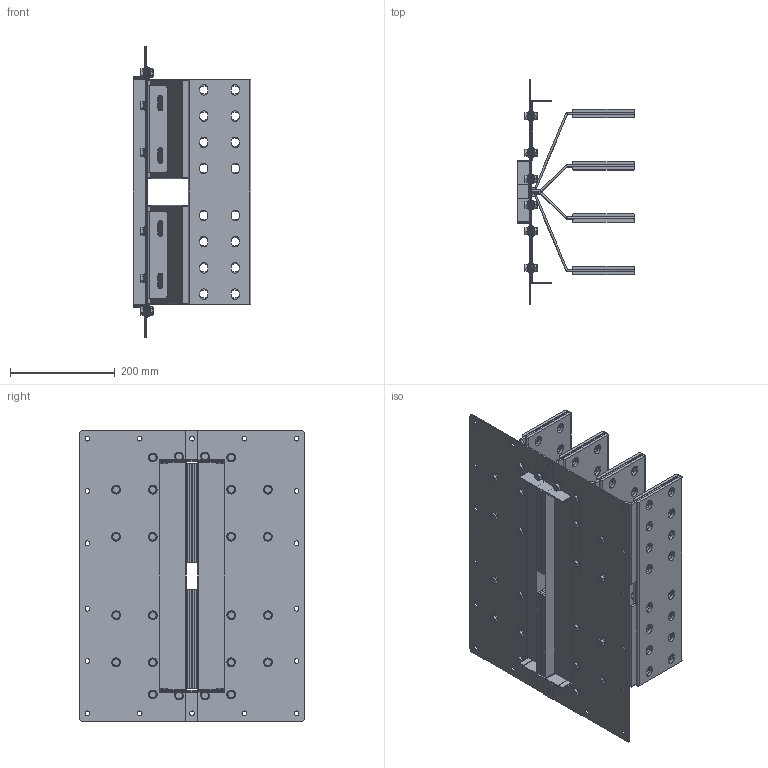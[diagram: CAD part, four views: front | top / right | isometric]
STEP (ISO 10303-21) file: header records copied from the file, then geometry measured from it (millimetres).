
FILE_DESCRIPTION(('CATIA V5 STEP','CAx-IF Rec.Pracs.--- Model Styling and Organization---1.5--- 2016-08-15','CAx-IF Rec.Pracs.---Supplemental Geometry---1.0---2011-11-01','CAx-IF Rec.Pracs.--- Composite Materials ---1.1---2010-07-15'),'2;1');
FILE_NAME('K:\COSCN 2011\32372311_RiduzioneSezioniBarre\03_Studio\__Modelli semplificati\XCP_UB semplificati per studi\XCP-S_UB_4C_Pe_STD_Assieme\Cu\XCP-S_UB_4C_Pe_D_Assieme - 4000A Cu\XCP-S_UB_4C_Pe_D_Assieme - 4000A Cu.stp','2025-05-12T13:18:26+00:00',('Utente Bticino'),('Bticino S.p.A.'),'CATIA Version 5-6 Release 2020 SP5','CATIA V5 STEP AP214 v2','none');
FILE_SCHEMA(('AUTOMOTIVE_DESIGN { 1 0 10303 214 1 1 1 1 }'));
Length unit declared in the file: millimetre
Products named in the file (8): XCP-S_UB_4C_Pe_D_Assieme - 4000A Cu; XCP-S_UB_4C_Pe_D_PaccoBarre_4000 Cu; XCP-S_UB_4C_Pe_D_Lamiere_4000A Cu; XCP-S_UB_4C_Pe_D_PaccoBarre_4000 Cu_1; XCP-S_UB_4C_Pe_D - 4000A Cu_Bandelle parallelo; Ass Vite+dado M8; Steel hex flanged SCREW M12x16; Steel hex flanged NUT M8
Assembly tree (30 placements, depth 3):
  XCP-S_UB_4C_Pe_D_Assieme - 4000A Cu
    XCP-S_UB_4C_Pe_D_PaccoBarre_4000 Cu
    XCP-S_UB_4C_Pe_D_Lamiere_4000A Cu
    XCP-S_UB_4C_Pe_D_PaccoBarre_4000 Cu_1
    XCP-S_UB_4C_Pe_D - 4000A Cu_Bandelle parallelo
    Ass Vite+dado M8  x24
      Steel hex flanged SCREW M12x16
      Steel hex flanged NUT M8
Bounding box: 225 x 430 x 555 mm (x, y, z)
Volume: 4606210.2 mm3; surface area: 2533646.9 mm2
Topology: 74 solids, 74 shells, 2404 faces, 6220 edges, 4012 vertices
Faces by surface type: plane 1064, cylinder 908, cone 192, bspline 192, torus 48
Entity records: 41578 total; most frequent: CARTESIAN_POINT 8284, ORIENTED_EDGE 7564, DIRECTION 5128, EDGE_CURVE 3782, VERTEX_POINT 2494, VECTOR 2400, LINE 2400, AXIS2_PLACEMENT_3D 2014
